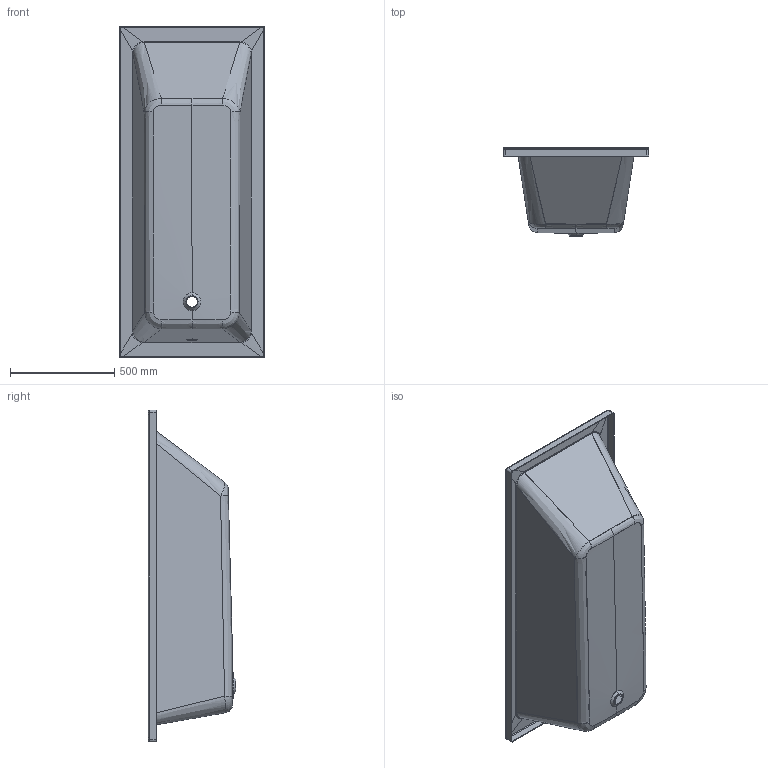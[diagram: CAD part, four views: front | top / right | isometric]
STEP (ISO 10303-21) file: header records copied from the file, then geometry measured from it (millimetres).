
FILE_DESCRIPTION((''),'2;1');
FILE_NAME('UBA150NES2TARGAPLUS_30052023','2023-05-31T07:58:11',('GrootJ'),('Villeroy & Boch Wellness bv'),'CREO PARAMETRIC BY PTC INC, 2022414','CREO PARAMETRIC BY PTC INC, 2022414','');
FILE_SCHEMA(('CONFIG_CONTROL_DESIGN'));
Length unit declared in the file: millimetre
Products named in the file (1): UBA150NES2TARGAPLUS_30052023
Bounding box: 700 x 422.32 x 1595 mm (x, y, z)
Volume: 9158442.8 mm3; surface area: 4593733 mm2
Topology: 1 solids, 1 shells, 150 faces, 352 edges, 204 vertices
Faces by surface type: bspline 116, plane 10, extrusion 8, cone 8, torus 4, cylinder 4
Entity records: 14245 total; most frequent: CARTESIAN_POINT 11453, ORIENTED_EDGE 704, DIRECTION 368, EDGE_CURVE 352, VERTEX_POINT 204, B_SPLINE_CURVE_WITH_KNOTS 160, EDGE_LOOP 154, FACE_OUTER_BOUND 150
